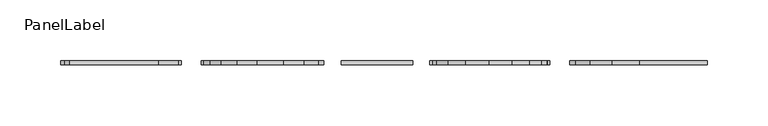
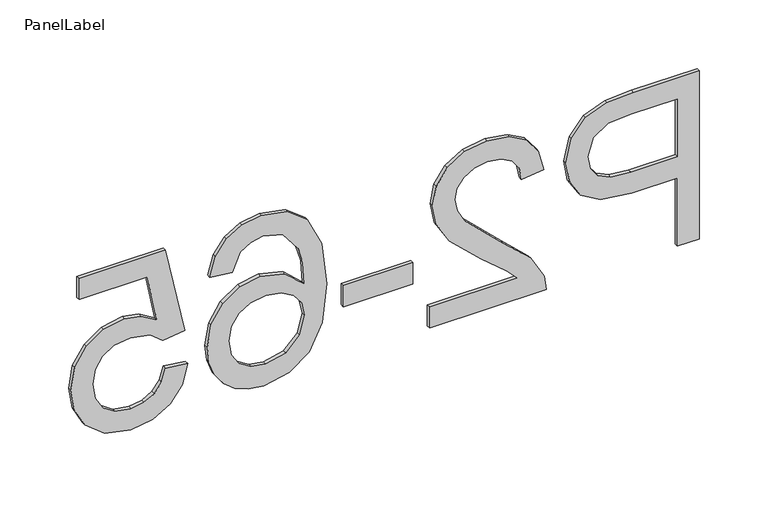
"""IFC4 building model written with IfcOpenShell, lengths in millimetres: fastener geometry, PanelLabel : Miranda."""

from ifc_helpers import new_model, si_unit, frame, origin, place, context, project, spatial, polyline, outline, extrude, source, transform, mapped, element, save


def panellabel_08628373(model_context):
    return source(origin(), model_context, "Body", "SweptSolid", [
        extrude(outline(polyline([(1310.9113766, 260.2523077), (1460.9667612, 260.2523077), (1460.9667612, 204.6409615), (1459.5380112, 182.2205769), (1452.5224823, 163.9948558), (1438.0151747, 152.1801923), (1417.554742, 147.7107692), (1399.8693814, 150.7285457), (1385.1331073, 159.781875), (1375.1868093, 176.7116466), (1371.8713766, 203.35875), (1371.8713766, 241.4953846), (1310.9113766, 241.4953846), (1310.9113766, 260.2523077)]), holes=[polyline([(1390.6282997, 241.4953846), (1390.6282997, 202.2597115), (1392.3501266, 185.6275962), (1397.5156073, 174.6372115), (1405.8041891, 168.5100721), (1416.8953189, 166.4676923), (1432.4283958, 171.2851442), (1440.9276266, 183.9424038), (1442.2098381, 202.6993269), (1442.2098381, 241.4953846), (1390.6282997, 241.4953846)])]), frame((0.0, 60.325, 0.0), z_axis=(0.0, 1.0, 0.0), x_axis=(0.0, 0.0, 1.0)), (0.0, 0.0, 1.0), 3.175),
        extrude(outline(polyline([(1329.6682997, 32.8246154), (1310.9113766, 32.8246154), (1310.9113766, 131.2984615), (1323.8433958, 129.2835577), (1343.7543093, 117.8901923), (1365.4969535, 94.4074038), (1396.7462804, 62.0224038), (1407.5168573, 55.9502163), (1417.9943573, 53.9261538), (1427.3865569, 55.8357332), (1435.1943093, 61.5644712), (1440.4559559, 70.3705168), (1442.2098381, 81.5120192), (1440.4971698, 93.2121995), (1435.359165, 102.3021635), (1427.1988045, 108.1682813), (1416.4190689, 110.1969231), (1418.7636843, 128.9538462), (1436.9069775, 124.4065745), (1450.1595497, 114.5747596), (1458.2649583, 99.9712861), (1460.9667612, 81.1090385), (1457.9627227, 62.1094111), (1448.9506073, 47.5334135), (1435.4873862, 38.2602764), (1419.1300304, 35.1692308), (1401.3439247, 38.5029808), (1382.9533477, 49.5849519), (1357.254165, 76.4564423), (1339.211617, 98.0342308), (1329.6682997, 106.4968269), (1329.6682997, 32.8246154)])), frame((0.0, 60.325, 0.0), z_axis=(0.0, 1.0, 0.0), x_axis=(0.0, 0.0, 1.0)), (0.0, 0.0, 1.0), 3.175),
        extrude(outline(polyline([(-39.8584615, 63.5), (18.7569231, 63.5), (18.7569231, 60.325), (-39.8584615, 60.325), (-39.8584615, 63.5)])), frame((0.0, 0.0, 1355.4590689), z_axis=(0.0, 0.0, 1.0), x_axis=(1.0, 0.0, 0.0)), (0.0, 0.0, 1.0), 18.7569231),
        extrude(outline(polyline([(1421.1082997, -152.4), (1418.7636843, -133.6430769), (1434.406665, -126.5359615), (1440.2590448, -118.0275721), (1442.2098381, -107.7424038), (1437.6671458, -90.8172115), (1420.6137323, -78.0134135), (1406.6422059, -74.1255649), (1387.1846458, -72.6830769), (1402.1498862, -89.2236058), (1407.0406073, -109.7206731), (1403.6976987, -127.0488462), (1393.6689727, -141.5927885), (1378.3465448, -151.4566587), (1359.1225304, -154.7446154), (1345.6913646, -153.1968029), (1333.2401747, -148.5533654), (1322.6802468, -141.1989663), (1314.922867, -131.5182692), (1310.1557876, -119.9508894), (1308.5667612, -106.9364423), (1312.779742, -85.6563101), (1325.4186843, -68.7082212), (1347.729165, -57.6216707), (1380.9567612, -53.9261538), (1418.3149102, -58.0292308), (1443.8583958, -70.3384615), (1456.6896698, -87.1445913), (1460.9667612, -108.9147115), (1458.3199102, -125.3728125), (1450.3793573, -138.5521154), (1437.767891, -147.7840385), (1421.1082997, -152.4)]), holes=[polyline([(1359.4156073, -72.6830769), (1343.1681554, -77.0242788), (1331.3718093, -88.5641827), (1327.3236843, -105.4710577), (1329.421016, -117.8489784), (1335.7130112, -127.5800481), (1345.6043573, -133.8857812), (1358.499742, -135.9876923), (1370.8776626, -133.9132572), (1380.3156554, -127.6899519), (1386.2916771, -117.7940264), (1388.2836843, -104.7017308), (1386.2916771, -92.3421274), (1380.3156554, -82.0065865), (1371.106629, -75.0139543), (1359.4156073, -72.6830769)])]), frame((0.0, 60.325, 0.0), z_axis=(0.0, 1.0, 0.0), x_axis=(0.0, 0.0, 1.0)), (0.0, 0.0, 1.0), 3.175),
        extrude(outline(polyline([(1350.7698381, -171.1569231), (1353.1144535, -189.9138462), (1341.8538886, -193.3575), (1333.7896939, -199.3655769), (1328.9401867, -207.910601), (1327.3236843, -218.9650962), (1329.5721338, -232.41), (1336.3174823, -242.4845192), (1346.7812444, -248.7765144), (1360.1849343, -250.8738462), (1372.8055593, -248.9093149), (1382.4587804, -243.0157212), (1388.5859198, -233.1472716), (1390.6282997, -219.2581731), (1387.3678189, -202.7909135), (1378.9052227, -192.2584615), (1381.2498381, -173.5015385), (1458.6221458, -189.9138462), (1458.6221458, -262.5969231), (1439.8652227, -262.5969231), (1439.8652227, -205.0805769), (1398.5413766, -197.0575962), (1406.6742612, -210.4567067), (1409.3852227, -224.4969231), (1406.0239968, -242.0220072), (1395.9403189, -256.5705288), (1380.5720977, -266.3657091), (1361.357242, -269.6307692), (1342.6003189, -266.6908413), (1326.5543573, -257.8710577), (1313.0636602, -240.9825), (1308.5667612, -218.8918269), (1311.4563165, -200.4691947), (1320.1249823, -185.7924519), (1333.5653069, -175.7316707), (1350.7698381, -171.1569231)])), frame((0.0, 60.325, 0.0), z_axis=(0.0, 1.0, 0.0), x_axis=(0.0, 0.0, 1.0)), (0.0, 0.0, 1.0), 3.175),
    ])


if __name__ == "__main__":
    model = new_model("IFC4")
    model_context = context("Model", 3, world=origin())
    ifc_project = project(units=[si_unit("LENGTHUNIT", "METRE", prefix="MILLI")], contexts=[model_context])
    site = spatial("IfcSite", under=ifc_project)
    building = spatial("IfcBuilding", under=site)
    placement = place(None, origin())
    panellabel_shape = panellabel_08628373(model_context)
    element("IfcFastener", 1, ObjectType="PanelLabel : Miranda", at=placement, inside=building, context=model_context, shape_type="MappedRepresentation", body=[
        mapped(panellabel_shape, transform((0.0, 0.0, 0.0), x_axis=(1.0, 0.0, 0.0), y_axis=(0.0, 1.0, 0.0), z_axis=(0.0, 0.0, 1.0))),
    ])
    save(model, "model.ifc")
